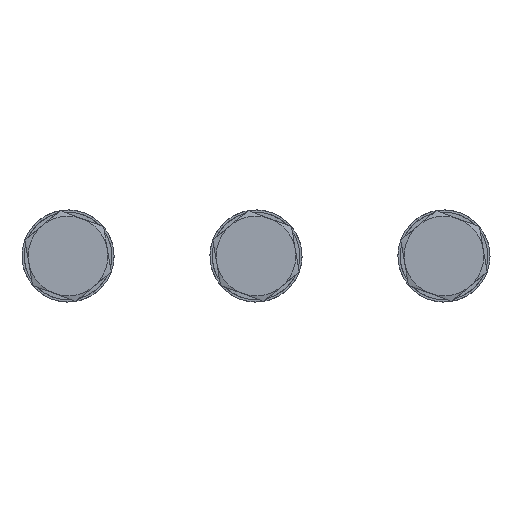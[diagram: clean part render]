
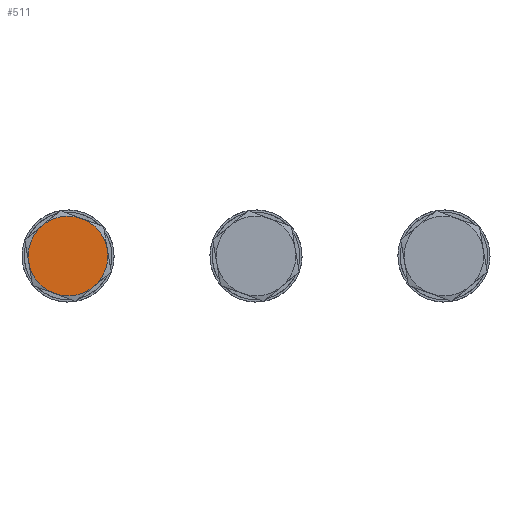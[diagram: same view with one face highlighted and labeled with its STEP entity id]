
A CAD part, left-side view. The second image highlights one B-rep face of the part: STEP entity #511.
In plain terms, the highlighted planar face has unit normal (-1, 0, 0) as drawn and (0, 0, 1) by its records, which use the part's own axes.
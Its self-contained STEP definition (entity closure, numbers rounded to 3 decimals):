
#78=PLANE('',#619);
#147=FACE_OUTER_BOUND('',#182,.T.);
#182=EDGE_LOOP('',(#457,#458,#459,#460,#461,#462));
#205=CIRCLE('',#610,3.5);
#206=CIRCLE('',#612,3.5);
#207=CIRCLE('',#614,3.5);
#208=CIRCLE('',#616,3.5);
#209=CIRCLE('',#618,3.5);
#210=CIRCLE('',#620,3.5);
#251=VERTEX_POINT('',#912);
#253=VERTEX_POINT('',#924);
#255=VERTEX_POINT('',#935);
#257=VERTEX_POINT('',#946);
#259=VERTEX_POINT('',#957);
#261=VERTEX_POINT('',#968);
#324=EDGE_CURVE('',#255,#257,#205,.T.);
#325=EDGE_CURVE('',#257,#259,#206,.T.);
#326=EDGE_CURVE('',#259,#261,#207,.T.);
#327=EDGE_CURVE('',#251,#253,#208,.T.);
#328=EDGE_CURVE('',#253,#255,#209,.T.);
#329=EDGE_CURVE('',#261,#251,#210,.T.);
#457=ORIENTED_EDGE('',*,*,#328,.F.);
#458=ORIENTED_EDGE('',*,*,#327,.F.);
#459=ORIENTED_EDGE('',*,*,#329,.F.);
#460=ORIENTED_EDGE('',*,*,#326,.F.);
#461=ORIENTED_EDGE('',*,*,#325,.F.);
#462=ORIENTED_EDGE('',*,*,#324,.F.);
#511=ADVANCED_FACE('',(#147),#78,.F.);
#610=AXIS2_PLACEMENT_3D('',#983,#749,#750);
#612=AXIS2_PLACEMENT_3D('',#985,#753,#754);
#614=AXIS2_PLACEMENT_3D('',#987,#757,#758);
#616=AXIS2_PLACEMENT_3D('',#989,#761,#762);
#618=AXIS2_PLACEMENT_3D('',#991,#765,#766);
#619=AXIS2_PLACEMENT_3D('',#992,#767,#768);
#620=AXIS2_PLACEMENT_3D('',#993,#769,#770);
#749=DIRECTION('center_axis',(0.,0.,-1.));
#750=DIRECTION('ref_axis',(-1.,0.,0.));
#753=DIRECTION('center_axis',(0.,0.,-1.));
#754=DIRECTION('ref_axis',(-1.,0.,0.));
#757=DIRECTION('center_axis',(0.,0.,-1.));
#758=DIRECTION('ref_axis',(-1.,0.,0.));
#761=DIRECTION('center_axis',(0.,0.,-1.));
#762=DIRECTION('ref_axis',(-1.,0.,0.));
#765=DIRECTION('center_axis',(0.,0.,-1.));
#766=DIRECTION('ref_axis',(-1.,0.,0.));
#767=DIRECTION('center_axis',(0.,0.,-1.));
#768=DIRECTION('ref_axis',(-1.,0.,0.));
#769=DIRECTION('center_axis',(0.,0.,-1.));
#770=DIRECTION('ref_axis',(-1.,0.,0.));
#912=CARTESIAN_POINT('',(-3.5,0.,4.));
#924=CARTESIAN_POINT('',(-1.75,3.031,4.));
#935=CARTESIAN_POINT('',(1.75,3.031,4.));
#946=CARTESIAN_POINT('',(3.5,0.,4.));
#957=CARTESIAN_POINT('',(1.75,-3.031,4.));
#968=CARTESIAN_POINT('',(-1.75,-3.031,4.));
#983=CARTESIAN_POINT('Origin',(0.,0.,4.));
#985=CARTESIAN_POINT('Origin',(0.,0.,4.));
#987=CARTESIAN_POINT('Origin',(0.,0.,4.));
#989=CARTESIAN_POINT('Origin',(0.,0.,4.));
#991=CARTESIAN_POINT('Origin',(0.,0.,4.));
#992=CARTESIAN_POINT('Origin',(0.,0.,4.));
#993=CARTESIAN_POINT('Origin',(0.,0.,4.));
